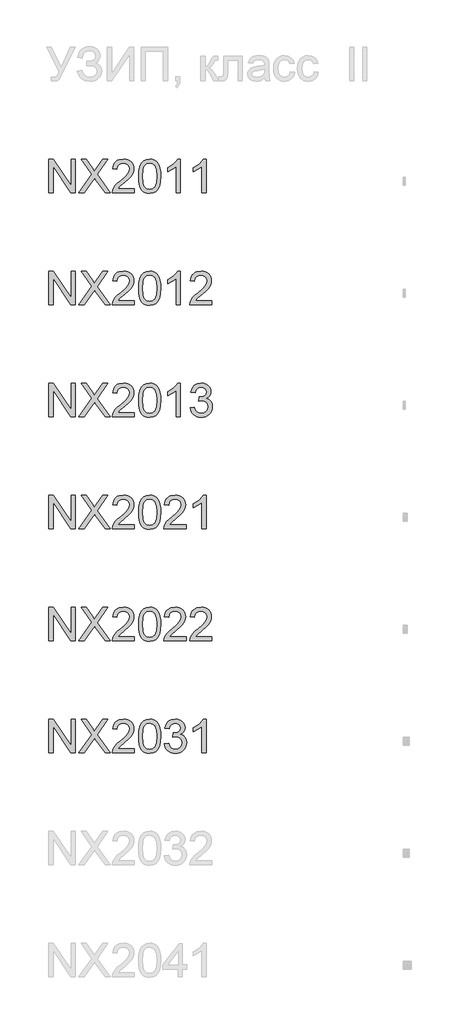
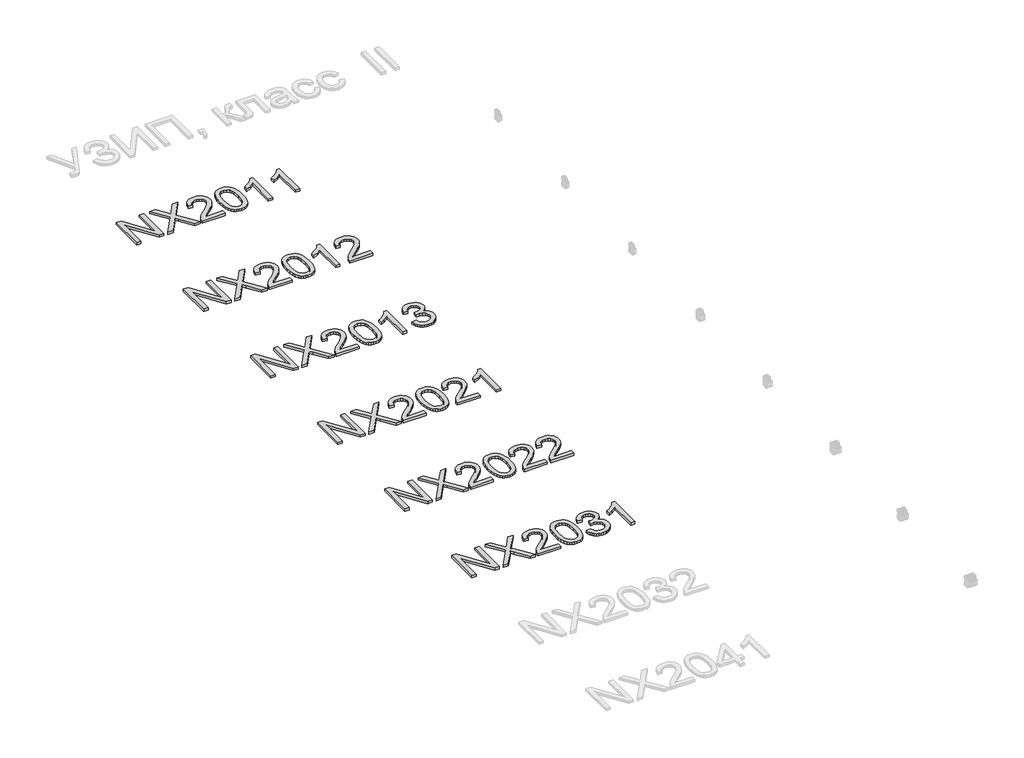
# One storey, part 26 of 124: 6 proxies.
"""IFC4 building model written with IfcOpenShell, lengths in millimetres."""

from ifc_helpers import new_model, si_unit, origin, origin_with_axes, place, context, project, spatial, polyline, outline, extrude, element, save

model = new_model("IFC4")

# Units and contexts
model_context = context("Model", 3, world=origin())
ifc_project = project(units=[si_unit("LENGTHUNIT", "METRE", prefix="MILLI")], contexts=[model_context])

# Site, building, storey
site = spatial("IfcSite", under=ifc_project)
building = spatial("IfcBuilding", under=site)
storey = spatial("IfcBuildingStorey", under=building, Name="Этаж 01", Elevation=0.0)

# Proxies
placement = place(None, origin())
element("IfcBuildingElementProxy", 1, Name="300", ObjectType="300", at=placement, inside=storey, context=model_context, shape_type="SweptSolid", body=[
    extrude(outline(polyline([(49499.8220677, -121116.6913893), (49499.8220677, -120815.3224589), (49540.1419344, -120815.3224589), (49697.5954283, -121054.0778737), (49697.5954283, -120815.3224589), (49735.2665446, -120815.3224589), (49735.2665446, -121116.6913893), (49694.9466779, -121116.6913893), (49537.493184, -120877.862398), (49537.493184, -121116.6913893), (49499.8220677, -121116.6913893)])), origin_with_axes(), (0.0, 0.0, 1.0), 20.0),
    extrude(outline(polyline([(49768.2287714, -121116.6913893), (49884.4059055, -120952.4688667), (49787.0643295, -120815.3224589), (49832.2402385, -120815.3224589), (49887.0546558, -120892.5041014), (49905.522332, -120922.5968486), (49927.1537933, -120891.9890666), (49981.3795994, -120815.3224589), (50027.217696, -120815.3224589), (49929.8761201, -120952.910325), (50046.0532541, -121116.6913893), (50000.8773451, -121116.6913893), (49923.4749733, -121007.5040131), (49907.361742, -120984.8424822), (49889.6298298, -121009.7113051), (49814.066868, -121116.6913893), (49768.2287714, -121116.6913893)])), origin_with_axes(), (0.0, 0.0, 1.0), 20.0),
    extrude(outline(polyline([(50262.6621729, -121079.020273), (50262.6621729, -121116.6913893), (50064.8888123, -121116.6913893), (50068.9355142, -121090.7189204), (50078.2245346, -121070.4210314), (50091.8177743, -121050.7301476), (50111.481067, -121030.1195588), (50138.9802461, -121007.0625547), (50179.6312066, -120970.9549369), (50204.0217829, -120944.3018864), (50216.217071, -120922.670425), (50220.282167, -120901.6275749), (50216.4469972, -120882.7644256), (50204.9414878, -120867.0834556), (50187.2555609, -120856.5160453), (50164.8791386, -120852.9935752), (50141.3806761, -120856.4332718), (50123.1245321, -120866.7523618), (50111.3431112, -120883.1415047), (50107.2688181, -120904.7913601), (50069.5977018, -120900.0824705), (50078.7303724, -120863.6437589), (50087.276731, -120849.1078216), (50098.4764384, -120837.0274966), (50112.0719774, -120827.5315426), (50127.8058305, -120820.7487183), (50165.688479, -120815.3224589), (50185.8783027, -120816.830775), (50203.8470389, -120821.3557236), (50219.5946876, -120828.8973045), (50233.1212487, -120839.4555177), (50243.9852638, -120852.2486141), (50251.7452747, -120866.4948444), (50256.4012812, -120882.1942085), (50257.9532834, -120899.3467065), (50256.2794203, -120917.3637273), (50251.257831, -120935.0680483), (50242.3458897, -120953.0758719), (50229.0009703, -120972.0034006), (50207.728194, -120994.6005522), (50175.0326816, -121023.6172445), (50131.6961826, -121059.853621), (50114.7000344, -121079.020273), (50262.6621729, -121079.020273)])), origin_with_axes(), (0.0, 0.0, 1.0), 20.0),
    extrude(outline(polyline([(50300.3332892, -120968.4349452), (50303.1016012, -120920.1964186), (50311.4065373, -120881.725159), (50325.1653239, -120852.4325551), (50344.2951876, -120831.7299958), (50368.9340842, -120819.4243431), (50399.2199695, -120815.3224589), (50422.4333234, -120817.75048), (50443.2186561, -120825.0345435), (50460.6010804, -120836.8895408), (50473.6057089, -120853.0303634), (50483.4281582, -120873.3190554), (50491.2640447, -120897.6176612), (50496.3959985, -120928.4737635), (50498.1066498, -120968.4349452), (50495.3659289, -121016.3975604), (50487.1437663, -121054.7768495), (50473.4677532, -121084.0970445), (50454.3654806, -121104.8823773), (50429.6714017, -121117.2708034), (50399.2199695, -121121.4002788), (50378.471425, -121119.6068541), (50360.0773252, -121114.2265799), (50344.0376702, -121105.2594563), (50330.35246, -121092.7054832), (50317.2190728, -121070.0117626), (50307.8380819, -121041.7354328), (50302.2094874, -121007.8764937), (50300.3332892, -120968.4349452)]), holes=[polyline([(50338.0044055, -120968.3613688), (50342.4189894, -121027.6179612), (50347.9372194, -121047.8859599), (50355.6627413, -121061.9137602), (50375.3812162, -121078.275312), (50399.2199695, -121083.7291625), (50423.0587228, -121078.2569179), (50442.7771977, -121061.8401838), (50450.5027196, -121047.7893909), (50456.0209496, -121027.5259907), (50460.4355335, -120968.3613688), (50456.1681024, -120910.4383487), (50450.8338134, -120890.2370286), (50443.3658089, -120875.8758353), (50423.6841222, -120858.7141402), (50398.7785111, -120852.9935752), (50375.1972752, -120858.0335585), (50356.2513525, -120873.1535085), (50348.2683132, -120888.7884933), (50342.5661422, -120909.8681316), (50338.0044055, -120968.3613688)])]), origin_with_axes(), (0.0, 0.0, 1.0), 20.0),
    extrude(outline(polyline([(50672.3355627, -121116.6913893), (50634.6644464, -121116.6913893), (50634.6644464, -120881.8355236), (50598.9798929, -120907.2561694), (50559.3222138, -120926.2756686), (50559.3222138, -120890.6646915), (50588.9091233, -120874.5698542), (50614.5413013, -120855.4215963), (50634.7472199, -120835.0593279), (50648.055351, -120815.3224589), (50672.3355627, -120815.3224589), (50672.3355627, -121116.6913893)])), origin_with_axes(), (0.0, 0.0, 1.0), 20.0),
    extrude(outline(polyline([(50903.0711501, -121116.6913893), (50865.4000338, -121116.6913893), (50865.4000338, -120881.8355236), (50829.7154803, -120907.2561694), (50790.0578012, -120926.2756686), (50790.0578012, -120890.6646915), (50819.6447106, -120874.5698542), (50845.2768887, -120855.4215963), (50865.4828072, -120835.0593279), (50878.7909384, -120815.3224589), (50903.0711501, -120815.3224589), (50903.0711501, -121116.6913893)])), origin_with_axes(), (0.0, 0.0, 1.0), 20.0),
])
element("IfcBuildingElementProxy", 2, Name="300", ObjectType="300", at=placement, inside=storey, context=model_context, shape_type="SweptSolid", body=[
    extrude(outline(polyline([(49499.8220677, -122116.6913893), (49499.8220677, -121815.3224589), (49540.1419344, -121815.3224589), (49697.5954283, -122054.0778737), (49697.5954283, -121815.3224589), (49735.2665446, -121815.3224589), (49735.2665446, -122116.6913893), (49694.9466779, -122116.6913893), (49537.493184, -121877.862398), (49537.493184, -122116.6913893), (49499.8220677, -122116.6913893)])), origin_with_axes(), (0.0, 0.0, 1.0), 20.0),
    extrude(outline(polyline([(49768.2287714, -122116.6913893), (49884.4059055, -121952.4688667), (49787.0643295, -121815.3224589), (49832.2402385, -121815.3224589), (49887.0546558, -121892.5041014), (49905.522332, -121922.5968486), (49927.1537933, -121891.9890666), (49981.3795994, -121815.3224589), (50027.217696, -121815.3224589), (49929.8761201, -121952.910325), (50046.0532541, -122116.6913893), (50000.8773451, -122116.6913893), (49923.4749733, -122007.5040131), (49907.361742, -121984.8424822), (49889.6298298, -122009.7113051), (49814.066868, -122116.6913893), (49768.2287714, -122116.6913893)])), origin_with_axes(), (0.0, 0.0, 1.0), 20.0),
    extrude(outline(polyline([(50262.6621729, -122079.020273), (50262.6621729, -122116.6913893), (50064.8888123, -122116.6913893), (50068.9355142, -122090.7189204), (50078.2245346, -122070.4210314), (50091.8177743, -122050.7301476), (50111.481067, -122030.1195588), (50138.9802461, -122007.0625547), (50179.6312066, -121970.9549369), (50204.0217829, -121944.3018864), (50216.217071, -121922.670425), (50220.282167, -121901.6275749), (50216.4469972, -121882.7644256), (50204.9414878, -121867.0834556), (50187.2555609, -121856.5160453), (50164.8791386, -121852.9935752), (50141.3806761, -121856.4332718), (50123.1245321, -121866.7523618), (50111.3431112, -121883.1415047), (50107.2688181, -121904.7913601), (50069.5977018, -121900.0824705), (50078.7303724, -121863.6437589), (50087.276731, -121849.1078216), (50098.4764384, -121837.0274966), (50112.0719774, -121827.5315426), (50127.8058305, -121820.7487183), (50165.688479, -121815.3224589), (50185.8783027, -121816.830775), (50203.8470389, -121821.3557236), (50219.5946876, -121828.8973045), (50233.1212487, -121839.4555177), (50243.9852638, -121852.2486141), (50251.7452747, -121866.4948444), (50256.4012812, -121882.1942085), (50257.9532834, -121899.3467065), (50256.2794203, -121917.3637273), (50251.257831, -121935.0680483), (50242.3458897, -121953.0758719), (50229.0009703, -121972.0034006), (50207.728194, -121994.6005522), (50175.0326816, -122023.6172445), (50131.6961826, -122059.853621), (50114.7000344, -122079.020273), (50262.6621729, -122079.020273)])), origin_with_axes(), (0.0, 0.0, 1.0), 20.0),
    extrude(outline(polyline([(50300.3332892, -121968.4349452), (50303.1016012, -121920.1964186), (50311.4065373, -121881.725159), (50325.1653239, -121852.4325551), (50344.2951876, -121831.7299958), (50368.9340842, -121819.4243431), (50399.2199695, -121815.3224589), (50422.4333234, -121817.75048), (50443.2186561, -121825.0345435), (50460.6010804, -121836.8895408), (50473.6057089, -121853.0303634), (50483.4281582, -121873.3190554), (50491.2640447, -121897.6176612), (50496.3959985, -121928.4737635), (50498.1066498, -121968.4349452), (50495.3659289, -122016.3975604), (50487.1437663, -122054.7768495), (50473.4677532, -122084.0970445), (50454.3654806, -122104.8823773), (50429.6714017, -122117.2708034), (50399.2199695, -122121.4002788), (50378.471425, -122119.6068541), (50360.0773252, -122114.2265799), (50344.0376702, -122105.2594563), (50330.35246, -122092.7054832), (50317.2190728, -122070.0117626), (50307.8380819, -122041.7354328), (50302.2094874, -122007.8764937), (50300.3332892, -121968.4349452)]), holes=[polyline([(50338.0044055, -121968.3613688), (50342.4189894, -122027.6179612), (50347.9372194, -122047.8859599), (50355.6627413, -122061.9137602), (50375.3812162, -122078.275312), (50399.2199695, -122083.7291625), (50423.0587228, -122078.2569179), (50442.7771977, -122061.8401838), (50450.5027196, -122047.7893909), (50456.0209496, -122027.5259907), (50460.4355335, -121968.3613688), (50456.1681024, -121910.4383487), (50450.8338134, -121890.2370286), (50443.3658089, -121875.8758353), (50423.6841222, -121858.7141402), (50398.7785111, -121852.9935752), (50375.1972752, -121858.0335585), (50356.2513525, -121873.1535085), (50348.2683132, -121888.7884933), (50342.5661422, -121909.8681316), (50338.0044055, -121968.3613688)])]), origin_with_axes(), (0.0, 0.0, 1.0), 20.0),
    extrude(outline(polyline([(50672.3355627, -122116.6913893), (50634.6644464, -122116.6913893), (50634.6644464, -121881.8355236), (50598.9798929, -121907.2561694), (50559.3222138, -121926.2756686), (50559.3222138, -121890.6646915), (50588.9091233, -121874.5698542), (50614.5413013, -121855.4215963), (50634.7472199, -121835.0593279), (50648.055351, -121815.3224589), (50672.3355627, -121815.3224589), (50672.3355627, -122116.6913893)])), origin_with_axes(), (0.0, 0.0, 1.0), 20.0),
    extrude(outline(polyline([(50954.868935, -122079.020273), (50954.868935, -122116.6913893), (50757.0955744, -122116.6913893), (50761.1422764, -122090.7189204), (50770.4312967, -122070.4210314), (50784.0245365, -122050.7301476), (50803.6878291, -122030.1195588), (50831.1870082, -122007.0625547), (50871.8379687, -121970.9549369), (50896.228545, -121944.3018864), (50908.4238331, -121922.670425), (50912.4889292, -121901.6275749), (50908.6537594, -121882.7644256), (50897.14825, -121867.0834556), (50879.4623231, -121856.5160453), (50857.0859007, -121852.9935752), (50833.5874383, -121856.4332718), (50815.3312942, -121866.7523618), (50803.5498734, -121883.1415047), (50799.4755803, -121904.7913601), (50761.8044639, -121900.0824705), (50770.9371345, -121863.6437589), (50779.4834931, -121849.1078216), (50790.6832006, -121837.0274966), (50804.2787396, -121827.5315426), (50820.0125926, -121820.7487183), (50857.8952411, -121815.3224589), (50878.0850648, -121816.830775), (50896.053801, -121821.3557236), (50911.8014497, -121828.8973045), (50925.3280108, -121839.4555177), (50936.192026, -121852.2486141), (50943.9520368, -121866.4948444), (50948.6080433, -121882.1942085), (50950.1600455, -121899.3467065), (50948.4861824, -121917.3637273), (50943.4645932, -121935.0680483), (50934.5526518, -121953.0758719), (50921.2077325, -121972.0034006), (50899.9349561, -121994.6005522), (50867.2394438, -122023.6172445), (50823.9029447, -122059.853621), (50806.9067966, -122079.020273), (50954.868935, -122079.020273)])), origin_with_axes(), (0.0, 0.0, 1.0), 20.0),
])
element("IfcBuildingElementProxy", 3, Name="300", ObjectType="300", at=placement, inside=storey, context=model_context, shape_type="SweptSolid", body=[
    extrude(outline(polyline([(49499.8220677, -123116.6913893), (49499.8220677, -122815.3224589), (49540.1419344, -122815.3224589), (49697.5954283, -123054.0778737), (49697.5954283, -122815.3224589), (49735.2665446, -122815.3224589), (49735.2665446, -123116.6913893), (49694.9466779, -123116.6913893), (49537.493184, -122877.862398), (49537.493184, -123116.6913893), (49499.8220677, -123116.6913893)])), origin_with_axes(), (0.0, 0.0, 1.0), 20.0),
    extrude(outline(polyline([(49768.2287714, -123116.6913893), (49884.4059055, -122952.4688667), (49787.0643295, -122815.3224589), (49832.2402385, -122815.3224589), (49887.0546558, -122892.5041014), (49905.522332, -122922.5968486), (49927.1537933, -122891.9890666), (49981.3795994, -122815.3224589), (50027.217696, -122815.3224589), (49929.8761201, -122952.910325), (50046.0532541, -123116.6913893), (50000.8773451, -123116.6913893), (49923.4749733, -123007.5040131), (49907.361742, -122984.8424822), (49889.6298298, -123009.7113051), (49814.066868, -123116.6913893), (49768.2287714, -123116.6913893)])), origin_with_axes(), (0.0, 0.0, 1.0), 20.0),
    extrude(outline(polyline([(50262.6621729, -123079.020273), (50262.6621729, -123116.6913893), (50064.8888123, -123116.6913893), (50068.9355142, -123090.7189204), (50078.2245346, -123070.4210314), (50091.8177743, -123050.7301476), (50111.481067, -123030.1195588), (50138.9802461, -123007.0625547), (50179.6312066, -122970.9549369), (50204.0217829, -122944.3018864), (50216.217071, -122922.670425), (50220.282167, -122901.6275749), (50216.4469972, -122882.7644256), (50204.9414878, -122867.0834556), (50187.2555609, -122856.5160453), (50164.8791386, -122852.9935752), (50141.3806761, -122856.4332718), (50123.1245321, -122866.7523618), (50111.3431112, -122883.1415047), (50107.2688181, -122904.7913601), (50069.5977018, -122900.0824705), (50078.7303724, -122863.6437589), (50087.276731, -122849.1078216), (50098.4764384, -122837.0274966), (50112.0719774, -122827.5315426), (50127.8058305, -122820.7487183), (50165.688479, -122815.3224589), (50185.8783027, -122816.830775), (50203.8470389, -122821.3557236), (50219.5946876, -122828.8973045), (50233.1212487, -122839.4555177), (50243.9852638, -122852.2486141), (50251.7452747, -122866.4948444), (50256.4012812, -122882.1942085), (50257.9532834, -122899.3467065), (50256.2794203, -122917.3637273), (50251.257831, -122935.0680483), (50242.3458897, -122953.0758719), (50229.0009703, -122972.0034006), (50207.728194, -122994.6005522), (50175.0326816, -123023.6172445), (50131.6961826, -123059.853621), (50114.7000344, -123079.020273), (50262.6621729, -123079.020273)])), origin_with_axes(), (0.0, 0.0, 1.0), 20.0),
    extrude(outline(polyline([(50300.3332892, -122968.4349452), (50303.1016012, -122920.1964186), (50311.4065373, -122881.725159), (50325.1653239, -122852.4325551), (50344.2951876, -122831.7299958), (50368.9340842, -122819.4243431), (50399.2199695, -122815.3224589), (50422.4333234, -122817.75048), (50443.2186561, -122825.0345435), (50460.6010804, -122836.8895408), (50473.6057089, -122853.0303634), (50483.4281582, -122873.3190554), (50491.2640447, -122897.6176612), (50496.3959985, -122928.4737635), (50498.1066498, -122968.4349452), (50495.3659289, -123016.3975604), (50487.1437663, -123054.7768495), (50473.4677532, -123084.0970445), (50454.3654806, -123104.8823773), (50429.6714017, -123117.2708034), (50399.2199695, -123121.4002788), (50378.471425, -123119.6068541), (50360.0773252, -123114.2265799), (50344.0376702, -123105.2594563), (50330.35246, -123092.7054832), (50317.2190728, -123070.0117626), (50307.8380819, -123041.7354328), (50302.2094874, -123007.8764937), (50300.3332892, -122968.4349452)]), holes=[polyline([(50338.0044055, -122968.3613688), (50342.4189894, -123027.6179612), (50347.9372194, -123047.8859599), (50355.6627413, -123061.9137602), (50375.3812162, -123078.275312), (50399.2199695, -123083.7291625), (50423.0587228, -123078.2569179), (50442.7771977, -123061.8401838), (50450.5027196, -123047.7893909), (50456.0209496, -123027.5259907), (50460.4355335, -122968.3613688), (50456.1681024, -122910.4383487), (50450.8338134, -122890.2370286), (50443.3658089, -122875.8758353), (50423.6841222, -122858.7141402), (50398.7785111, -122852.9935752), (50375.1972752, -122858.0335585), (50356.2513525, -122873.1535085), (50348.2683132, -122888.7884933), (50342.5661422, -122909.8681316), (50338.0044055, -122968.3613688)])]), origin_with_axes(), (0.0, 0.0, 1.0), 20.0),
    extrude(outline(polyline([(50672.3355627, -123116.6913893), (50634.6644464, -123116.6913893), (50634.6644464, -122881.8355236), (50598.9798929, -122907.2561694), (50559.3222138, -122926.2756686), (50559.3222138, -122890.6646915), (50588.9091233, -122874.5698542), (50614.5413013, -122855.4215963), (50634.7472199, -122835.0593279), (50648.055351, -122815.3224589), (50672.3355627, -122815.3224589), (50672.3355627, -123116.6913893)])), origin_with_axes(), (0.0, 0.0, 1.0), 20.0),
    extrude(outline(polyline([(50761.8044639, -123036.6402671), (50799.4755803, -123031.9313776), (50807.909275, -123055.604584), (50820.260913, -123071.5890567), (50837.1374995, -123080.6941361), (50859.1460399, -123083.7291625), (50884.9713559, -123079.5537019), (50904.9105601, -123067.02732), (50917.6576712, -123048.3389146), (50921.9067082, -123025.6773837), (50917.6944594, -123004.165484), (50905.0577129, -122986.7186804), (50885.9278491, -122975.1579887), (50862.2362486, -122971.3044248), (50835.8223214, -122975.4247032), (50840.0161761, -122937.7535868), (50846.0494408, -122938.1950452), (50868.6190012, -122935.4911126), (50888.7973287, -122927.3793146), (50903.0343619, -122913.6573162), (50907.7800396, -122894.1227822), (50904.340343, -122877.853201), (50894.021253, -122864.6554344), (50878.2759036, -122855.90904), (50858.5574287, -122852.9935752), (50838.8021655, -122855.9366311), (50822.652146, -122864.765799), (50810.861528, -122879.4810788), (50804.1844698, -122900.0824705), (50766.5133535, -122895.373581), (50777.6049956, -122861.5468315), (50797.3418647, -122836.2917326), (50824.3444031, -122820.5647773), (50857.2330535, -122815.3224589), (50880.9154569, -122817.9068299), (50902.6664799, -122825.6599429), (50921.0053974, -122837.8920193), (50934.4514843, -122853.9132801), (50942.701238, -122872.3717593), (50945.4511559, -122891.9154902), (50942.8391938, -122910.125649), (50935.0033073, -122926.6435506), (50922.053861, -122940.7150369), (50904.1012197, -122951.5859499), (50927.6824556, -122961.1140935), (50945.1568503, -122977.3376895), (50955.972581, -122999.373821), (50959.5778246, -123026.3395713), (50957.7752028, -123045.4510409), (50952.3673374, -123063.0541944), (50943.3542286, -123079.1490317), (50930.7358761, -123093.7355528), (50915.3630073, -123105.8388704), (50898.0863491, -123114.4840973), (50878.9059015, -123119.6712335), (50857.8216647, -123121.4002788), (50838.7653773, -123119.9241523), (50821.4013472, -123115.4957728), (50805.7295742, -123108.1151403), (50791.7500584, -123097.7822547), (50780.0284183, -123085.1041215), (50771.1302725, -123070.6877458), (50765.0556211, -123054.5331277), (50761.8044639, -123036.6402671)])), origin_with_axes(), (0.0, 0.0, 1.0), 20.0),
])
element("IfcBuildingElementProxy", 4, Name="300", ObjectType="300", at=placement, inside=storey, context=model_context, shape_type="SweptSolid", body=[
    extrude(outline(polyline([(49499.8220677, -124116.6913893), (49499.8220677, -123815.3224589), (49540.1419344, -123815.3224589), (49697.5954283, -124054.0778737), (49697.5954283, -123815.3224589), (49735.2665446, -123815.3224589), (49735.2665446, -124116.6913893), (49694.9466779, -124116.6913893), (49537.493184, -123877.862398), (49537.493184, -124116.6913893), (49499.8220677, -124116.6913893)])), origin_with_axes(), (0.0, 0.0, 1.0), 20.0),
    extrude(outline(polyline([(49768.2287714, -124116.6913893), (49884.4059055, -123952.4688667), (49787.0643295, -123815.3224589), (49832.2402385, -123815.3224589), (49887.0546558, -123892.5041014), (49905.522332, -123922.5968486), (49927.1537933, -123891.9890666), (49981.3795994, -123815.3224589), (50027.217696, -123815.3224589), (49929.8761201, -123952.910325), (50046.0532541, -124116.6913893), (50000.8773451, -124116.6913893), (49923.4749733, -124007.5040131), (49907.361742, -123984.8424822), (49889.6298298, -124009.7113051), (49814.066868, -124116.6913893), (49768.2287714, -124116.6913893)])), origin_with_axes(), (0.0, 0.0, 1.0), 20.0),
    extrude(outline(polyline([(50262.6621729, -124079.020273), (50262.6621729, -124116.6913893), (50064.8888123, -124116.6913893), (50068.9355142, -124090.7189204), (50078.2245346, -124070.4210314), (50091.8177743, -124050.7301476), (50111.481067, -124030.1195588), (50138.9802461, -124007.0625547), (50179.6312066, -123970.9549369), (50204.0217829, -123944.3018864), (50216.217071, -123922.670425), (50220.282167, -123901.6275749), (50216.4469972, -123882.7644256), (50204.9414878, -123867.0834556), (50187.2555609, -123856.5160453), (50164.8791386, -123852.9935752), (50141.3806761, -123856.4332718), (50123.1245321, -123866.7523618), (50111.3431112, -123883.1415047), (50107.2688181, -123904.7913601), (50069.5977018, -123900.0824705), (50078.7303724, -123863.6437589), (50087.276731, -123849.1078216), (50098.4764384, -123837.0274966), (50112.0719774, -123827.5315426), (50127.8058305, -123820.7487183), (50165.688479, -123815.3224589), (50185.8783027, -123816.830775), (50203.8470389, -123821.3557236), (50219.5946876, -123828.8973045), (50233.1212487, -123839.4555177), (50243.9852638, -123852.2486141), (50251.7452747, -123866.4948444), (50256.4012812, -123882.1942085), (50257.9532834, -123899.3467065), (50256.2794203, -123917.3637273), (50251.257831, -123935.0680483), (50242.3458897, -123953.0758719), (50229.0009703, -123972.0034006), (50207.728194, -123994.6005522), (50175.0326816, -124023.6172445), (50131.6961826, -124059.853621), (50114.7000344, -124079.020273), (50262.6621729, -124079.020273)])), origin_with_axes(), (0.0, 0.0, 1.0), 20.0),
    extrude(outline(polyline([(50300.3332892, -123968.4349452), (50303.1016012, -123920.1964186), (50311.4065373, -123881.725159), (50325.1653239, -123852.4325551), (50344.2951876, -123831.7299958), (50368.9340842, -123819.4243431), (50399.2199695, -123815.3224589), (50422.4333234, -123817.75048), (50443.2186561, -123825.0345435), (50460.6010804, -123836.8895408), (50473.6057089, -123853.0303634), (50483.4281582, -123873.3190554), (50491.2640447, -123897.6176612), (50496.3959985, -123928.4737635), (50498.1066498, -123968.4349452), (50495.3659289, -124016.3975604), (50487.1437663, -124054.7768495), (50473.4677532, -124084.0970445), (50454.3654806, -124104.8823773), (50429.6714017, -124117.2708034), (50399.2199695, -124121.4002788), (50378.471425, -124119.6068541), (50360.0773252, -124114.2265799), (50344.0376702, -124105.2594563), (50330.35246, -124092.7054832), (50317.2190728, -124070.0117626), (50307.8380819, -124041.7354328), (50302.2094874, -124007.8764937), (50300.3332892, -123968.4349452)]), holes=[polyline([(50338.0044055, -123968.3613688), (50342.4189894, -124027.6179612), (50347.9372194, -124047.8859599), (50355.6627413, -124061.9137602), (50375.3812162, -124078.275312), (50399.2199695, -124083.7291625), (50423.0587228, -124078.2569179), (50442.7771977, -124061.8401838), (50450.5027196, -124047.7893909), (50456.0209496, -124027.5259907), (50460.4355335, -123968.3613688), (50456.1681024, -123910.4383487), (50450.8338134, -123890.2370286), (50443.3658089, -123875.8758353), (50423.6841222, -123858.7141402), (50398.7785111, -123852.9935752), (50375.1972752, -123858.0335585), (50356.2513525, -123873.1535085), (50348.2683132, -123888.7884933), (50342.5661422, -123909.8681316), (50338.0044055, -123968.3613688)])]), origin_with_axes(), (0.0, 0.0, 1.0), 20.0),
    extrude(outline(polyline([(50724.1333476, -124079.020273), (50724.1333476, -124116.6913893), (50526.359987, -124116.6913893), (50530.406689, -124090.7189204), (50539.6957094, -124070.4210314), (50553.2889491, -124050.7301476), (50572.9522417, -124030.1195588), (50600.4514209, -124007.0625547), (50641.1023813, -123970.9549369), (50665.4929576, -123944.3018864), (50677.6882458, -123922.670425), (50681.7533418, -123901.6275749), (50677.918172, -123882.7644256), (50666.4126626, -123867.0834556), (50648.7267357, -123856.5160453), (50626.3503133, -123852.9935752), (50602.8518509, -123856.4332718), (50584.5957069, -123866.7523618), (50572.814286, -123883.1415047), (50568.7399929, -123904.7913601), (50531.0688766, -123900.0824705), (50540.2015471, -123863.6437589), (50548.7479057, -123849.1078216), (50559.9476132, -123837.0274966), (50573.5431522, -123827.5315426), (50589.2770053, -123820.7487183), (50627.1596537, -123815.3224589), (50647.3494775, -123816.830775), (50665.3182137, -123821.3557236), (50681.0658623, -123828.8973045), (50694.5924234, -123839.4555177), (50705.4564386, -123852.2486141), (50713.2164494, -123866.4948444), (50717.8724559, -123882.1942085), (50719.4244581, -123899.3467065), (50717.750595, -123917.3637273), (50712.7290058, -123935.0680483), (50703.8170645, -123953.0758719), (50690.4721451, -123972.0034006), (50669.1993687, -123994.6005522), (50636.5038564, -124023.6172445), (50593.1673574, -124059.853621), (50576.1712092, -124079.020273), (50724.1333476, -124079.020273)])), origin_with_axes(), (0.0, 0.0, 1.0), 20.0),
    extrude(outline(polyline([(50903.0711501, -124116.6913893), (50865.4000338, -124116.6913893), (50865.4000338, -123881.8355236), (50829.7154803, -123907.2561694), (50790.0578012, -123926.2756686), (50790.0578012, -123890.6646915), (50819.6447106, -123874.5698542), (50845.2768887, -123855.4215963), (50865.4828072, -123835.0593279), (50878.7909384, -123815.3224589), (50903.0711501, -123815.3224589), (50903.0711501, -124116.6913893)])), origin_with_axes(), (0.0, 0.0, 1.0), 20.0),
])
element("IfcBuildingElementProxy", 5, Name="300", ObjectType="300", at=placement, inside=storey, context=model_context, shape_type="SweptSolid", body=[
    extrude(outline(polyline([(49499.8220677, -125116.6913893), (49499.8220677, -124815.3224589), (49540.1419344, -124815.3224589), (49697.5954283, -125054.0778737), (49697.5954283, -124815.3224589), (49735.2665446, -124815.3224589), (49735.2665446, -125116.6913893), (49694.9466779, -125116.6913893), (49537.493184, -124877.862398), (49537.493184, -125116.6913893), (49499.8220677, -125116.6913893)])), origin_with_axes(), (0.0, 0.0, 1.0), 20.0),
    extrude(outline(polyline([(49768.2287714, -125116.6913893), (49884.4059055, -124952.4688667), (49787.0643295, -124815.3224589), (49832.2402385, -124815.3224589), (49887.0546558, -124892.5041014), (49905.522332, -124922.5968486), (49927.1537933, -124891.9890666), (49981.3795994, -124815.3224589), (50027.217696, -124815.3224589), (49929.8761201, -124952.910325), (50046.0532541, -125116.6913893), (50000.8773451, -125116.6913893), (49923.4749733, -125007.5040131), (49907.361742, -124984.8424822), (49889.6298298, -125009.7113051), (49814.066868, -125116.6913893), (49768.2287714, -125116.6913893)])), origin_with_axes(), (0.0, 0.0, 1.0), 20.0),
    extrude(outline(polyline([(50262.6621729, -125079.020273), (50262.6621729, -125116.6913893), (50064.8888123, -125116.6913893), (50068.9355142, -125090.7189204), (50078.2245346, -125070.4210314), (50091.8177743, -125050.7301476), (50111.481067, -125030.1195588), (50138.9802461, -125007.0625547), (50179.6312066, -124970.9549369), (50204.0217829, -124944.3018864), (50216.217071, -124922.670425), (50220.282167, -124901.6275749), (50216.4469972, -124882.7644256), (50204.9414878, -124867.0834556), (50187.2555609, -124856.5160453), (50164.8791386, -124852.9935752), (50141.3806761, -124856.4332718), (50123.1245321, -124866.7523618), (50111.3431112, -124883.1415047), (50107.2688181, -124904.7913601), (50069.5977018, -124900.0824705), (50078.7303724, -124863.6437589), (50087.276731, -124849.1078216), (50098.4764384, -124837.0274966), (50112.0719774, -124827.5315426), (50127.8058305, -124820.7487183), (50165.688479, -124815.3224589), (50185.8783027, -124816.830775), (50203.8470389, -124821.3557236), (50219.5946876, -124828.8973045), (50233.1212487, -124839.4555177), (50243.9852638, -124852.2486141), (50251.7452747, -124866.4948444), (50256.4012812, -124882.1942085), (50257.9532834, -124899.3467065), (50256.2794203, -124917.3637273), (50251.257831, -124935.0680483), (50242.3458897, -124953.0758719), (50229.0009703, -124972.0034006), (50207.728194, -124994.6005522), (50175.0326816, -125023.6172445), (50131.6961826, -125059.853621), (50114.7000344, -125079.020273), (50262.6621729, -125079.020273)])), origin_with_axes(), (0.0, 0.0, 1.0), 20.0),
    extrude(outline(polyline([(50300.3332892, -124968.4349452), (50303.1016012, -124920.1964186), (50311.4065373, -124881.725159), (50325.1653239, -124852.4325551), (50344.2951876, -124831.7299958), (50368.9340842, -124819.4243431), (50399.2199695, -124815.3224589), (50422.4333234, -124817.75048), (50443.2186561, -124825.0345435), (50460.6010804, -124836.8895408), (50473.6057089, -124853.0303634), (50483.4281582, -124873.3190554), (50491.2640447, -124897.6176612), (50496.3959985, -124928.4737635), (50498.1066498, -124968.4349452), (50495.3659289, -125016.3975604), (50487.1437663, -125054.7768495), (50473.4677532, -125084.0970445), (50454.3654806, -125104.8823773), (50429.6714017, -125117.2708034), (50399.2199695, -125121.4002788), (50378.471425, -125119.6068541), (50360.0773252, -125114.2265799), (50344.0376702, -125105.2594563), (50330.35246, -125092.7054832), (50317.2190728, -125070.0117626), (50307.8380819, -125041.7354328), (50302.2094874, -125007.8764937), (50300.3332892, -124968.4349452)]), holes=[polyline([(50338.0044055, -124968.3613688), (50342.4189894, -125027.6179612), (50347.9372194, -125047.8859599), (50355.6627413, -125061.9137602), (50375.3812162, -125078.275312), (50399.2199695, -125083.7291625), (50423.0587228, -125078.2569179), (50442.7771977, -125061.8401838), (50450.5027196, -125047.7893909), (50456.0209496, -125027.5259907), (50460.4355335, -124968.3613688), (50456.1681024, -124910.4383487), (50450.8338134, -124890.2370286), (50443.3658089, -124875.8758353), (50423.6841222, -124858.7141402), (50398.7785111, -124852.9935752), (50375.1972752, -124858.0335585), (50356.2513525, -124873.1535085), (50348.2683132, -124888.7884933), (50342.5661422, -124909.8681316), (50338.0044055, -124968.3613688)])]), origin_with_axes(), (0.0, 0.0, 1.0), 20.0),
    extrude(outline(polyline([(50724.1333476, -125079.020273), (50724.1333476, -125116.6913893), (50526.359987, -125116.6913893), (50530.406689, -125090.7189204), (50539.6957094, -125070.4210314), (50553.2889491, -125050.7301476), (50572.9522417, -125030.1195588), (50600.4514209, -125007.0625547), (50641.1023813, -124970.9549369), (50665.4929576, -124944.3018864), (50677.6882458, -124922.670425), (50681.7533418, -124901.6275749), (50677.918172, -124882.7644256), (50666.4126626, -124867.0834556), (50648.7267357, -124856.5160453), (50626.3503133, -124852.9935752), (50602.8518509, -124856.4332718), (50584.5957069, -124866.7523618), (50572.814286, -124883.1415047), (50568.7399929, -124904.7913601), (50531.0688766, -124900.0824705), (50540.2015471, -124863.6437589), (50548.7479057, -124849.1078216), (50559.9476132, -124837.0274966), (50573.5431522, -124827.5315426), (50589.2770053, -124820.7487183), (50627.1596537, -124815.3224589), (50647.3494775, -124816.830775), (50665.3182137, -124821.3557236), (50681.0658623, -124828.8973045), (50694.5924234, -124839.4555177), (50705.4564386, -124852.2486141), (50713.2164494, -124866.4948444), (50717.8724559, -124882.1942085), (50719.4244581, -124899.3467065), (50717.750595, -124917.3637273), (50712.7290058, -124935.0680483), (50703.8170645, -124953.0758719), (50690.4721451, -124972.0034006), (50669.1993687, -124994.6005522), (50636.5038564, -125023.6172445), (50593.1673574, -125059.853621), (50576.1712092, -125079.020273), (50724.1333476, -125079.020273)])), origin_with_axes(), (0.0, 0.0, 1.0), 20.0),
    extrude(outline(polyline([(50954.868935, -125079.020273), (50954.868935, -125116.6913893), (50757.0955744, -125116.6913893), (50761.1422764, -125090.7189204), (50770.4312967, -125070.4210314), (50784.0245365, -125050.7301476), (50803.6878291, -125030.1195588), (50831.1870082, -125007.0625547), (50871.8379687, -124970.9549369), (50896.228545, -124944.3018864), (50908.4238331, -124922.670425), (50912.4889292, -124901.6275749), (50908.6537594, -124882.7644256), (50897.14825, -124867.0834556), (50879.4623231, -124856.5160453), (50857.0859007, -124852.9935752), (50833.5874383, -124856.4332718), (50815.3312942, -124866.7523618), (50803.5498734, -124883.1415047), (50799.4755803, -124904.7913601), (50761.8044639, -124900.0824705), (50770.9371345, -124863.6437589), (50779.4834931, -124849.1078216), (50790.6832006, -124837.0274966), (50804.2787396, -124827.5315426), (50820.0125926, -124820.7487183), (50857.8952411, -124815.3224589), (50878.0850648, -124816.830775), (50896.053801, -124821.3557236), (50911.8014497, -124828.8973045), (50925.3280108, -124839.4555177), (50936.192026, -124852.2486141), (50943.9520368, -124866.4948444), (50948.6080433, -124882.1942085), (50950.1600455, -124899.3467065), (50948.4861824, -124917.3637273), (50943.4645932, -124935.0680483), (50934.5526518, -124953.0758719), (50921.2077325, -124972.0034006), (50899.9349561, -124994.6005522), (50867.2394438, -125023.6172445), (50823.9029447, -125059.853621), (50806.9067966, -125079.020273), (50954.868935, -125079.020273)])), origin_with_axes(), (0.0, 0.0, 1.0), 20.0),
])
element("IfcBuildingElementProxy", 6, Name="300", ObjectType="300", at=placement, inside=storey, context=model_context, shape_type="SweptSolid", body=[
    extrude(outline(polyline([(49499.8220677, -126116.6913893), (49499.8220677, -125815.3224589), (49540.1419344, -125815.3224589), (49697.5954283, -126054.0778737), (49697.5954283, -125815.3224589), (49735.2665446, -125815.3224589), (49735.2665446, -126116.6913893), (49694.9466779, -126116.6913893), (49537.493184, -125877.862398), (49537.493184, -126116.6913893), (49499.8220677, -126116.6913893)])), origin_with_axes(), (0.0, 0.0, 1.0), 20.0),
    extrude(outline(polyline([(49768.2287714, -126116.6913893), (49884.4059055, -125952.4688667), (49787.0643295, -125815.3224589), (49832.2402385, -125815.3224589), (49887.0546558, -125892.5041014), (49905.522332, -125922.5968486), (49927.1537933, -125891.9890666), (49981.3795994, -125815.3224589), (50027.217696, -125815.3224589), (49929.8761201, -125952.910325), (50046.0532541, -126116.6913893), (50000.8773451, -126116.6913893), (49923.4749733, -126007.5040131), (49907.361742, -125984.8424822), (49889.6298298, -126009.7113051), (49814.066868, -126116.6913893), (49768.2287714, -126116.6913893)])), origin_with_axes(), (0.0, 0.0, 1.0), 20.0),
    extrude(outline(polyline([(50262.6621729, -126079.020273), (50262.6621729, -126116.6913893), (50064.8888123, -126116.6913893), (50068.9355142, -126090.7189204), (50078.2245346, -126070.4210314), (50091.8177743, -126050.7301476), (50111.481067, -126030.1195588), (50138.9802461, -126007.0625547), (50179.6312066, -125970.9549369), (50204.0217829, -125944.3018864), (50216.217071, -125922.670425), (50220.282167, -125901.6275749), (50216.4469972, -125882.7644256), (50204.9414878, -125867.0834556), (50187.2555609, -125856.5160453), (50164.8791386, -125852.9935752), (50141.3806761, -125856.4332718), (50123.1245321, -125866.7523618), (50111.3431112, -125883.1415047), (50107.2688181, -125904.7913601), (50069.5977018, -125900.0824705), (50078.7303724, -125863.6437589), (50087.276731, -125849.1078216), (50098.4764384, -125837.0274966), (50112.0719774, -125827.5315426), (50127.8058305, -125820.7487183), (50165.688479, -125815.3224589), (50185.8783027, -125816.830775), (50203.8470389, -125821.3557236), (50219.5946876, -125828.8973045), (50233.1212487, -125839.4555177), (50243.9852638, -125852.2486141), (50251.7452747, -125866.4948444), (50256.4012812, -125882.1942085), (50257.9532834, -125899.3467065), (50256.2794203, -125917.3637273), (50251.257831, -125935.0680483), (50242.3458897, -125953.0758719), (50229.0009703, -125972.0034006), (50207.728194, -125994.6005522), (50175.0326816, -126023.6172445), (50131.6961826, -126059.853621), (50114.7000344, -126079.020273), (50262.6621729, -126079.020273)])), origin_with_axes(), (0.0, 0.0, 1.0), 20.0),
    extrude(outline(polyline([(50300.3332892, -125968.4349452), (50303.1016012, -125920.1964186), (50311.4065373, -125881.725159), (50325.1653239, -125852.4325551), (50344.2951876, -125831.7299958), (50368.9340842, -125819.4243431), (50399.2199695, -125815.3224589), (50422.4333234, -125817.75048), (50443.2186561, -125825.0345435), (50460.6010804, -125836.8895408), (50473.6057089, -125853.0303634), (50483.4281582, -125873.3190554), (50491.2640447, -125897.6176612), (50496.3959985, -125928.4737635), (50498.1066498, -125968.4349452), (50495.3659289, -126016.3975604), (50487.1437663, -126054.7768495), (50473.4677532, -126084.0970445), (50454.3654806, -126104.8823773), (50429.6714017, -126117.2708034), (50399.2199695, -126121.4002788), (50378.471425, -126119.6068541), (50360.0773252, -126114.2265799), (50344.0376702, -126105.2594563), (50330.35246, -126092.7054832), (50317.2190728, -126070.0117626), (50307.8380819, -126041.7354328), (50302.2094874, -126007.8764937), (50300.3332892, -125968.4349452)]), holes=[polyline([(50338.0044055, -125968.3613688), (50342.4189894, -126027.6179612), (50347.9372194, -126047.8859599), (50355.6627413, -126061.9137602), (50375.3812162, -126078.275312), (50399.2199695, -126083.7291625), (50423.0587228, -126078.2569179), (50442.7771977, -126061.8401838), (50450.5027196, -126047.7893909), (50456.0209496, -126027.5259907), (50460.4355335, -125968.3613688), (50456.1681024, -125910.4383487), (50450.8338134, -125890.2370286), (50443.3658089, -125875.8758353), (50423.6841222, -125858.7141402), (50398.7785111, -125852.9935752), (50375.1972752, -125858.0335585), (50356.2513525, -125873.1535085), (50348.2683132, -125888.7884933), (50342.5661422, -125909.8681316), (50338.0044055, -125968.3613688)])]), origin_with_axes(), (0.0, 0.0, 1.0), 20.0),
    extrude(outline(polyline([(50531.0688766, -126036.6402671), (50568.7399929, -126031.9313776), (50577.1736876, -126055.604584), (50589.5253256, -126071.5890567), (50606.4019121, -126080.6941361), (50628.4104525, -126083.7291625), (50654.2357686, -126079.5537019), (50674.1749727, -126067.02732), (50686.9220838, -126048.3389146), (50691.1711209, -126025.6773837), (50686.958872, -126004.165484), (50674.3221255, -125986.7186804), (50655.1922617, -125975.1579887), (50631.5006613, -125971.3044248), (50605.086734, -125975.4247032), (50609.2805887, -125937.7535868), (50615.3138535, -125938.1950452), (50637.8834139, -125935.4911126), (50658.0617413, -125927.3793146), (50672.2987745, -125913.6573162), (50677.0444523, -125894.1227822), (50673.6047556, -125877.853201), (50663.2856656, -125864.6554344), (50647.5403162, -125855.90904), (50627.8218413, -125852.9935752), (50608.0665782, -125855.9366311), (50591.9165586, -125864.765799), (50580.1259406, -125879.4810788), (50573.4488824, -125900.0824705), (50535.7777661, -125895.373581), (50546.8694083, -125861.5468315), (50566.6062773, -125836.2917326), (50593.6088158, -125820.5647773), (50626.4974661, -125815.3224589), (50650.1798696, -125817.9068299), (50671.9308925, -125825.6599429), (50690.26981, -125837.8920193), (50703.7158969, -125853.9132801), (50711.9656507, -125872.3717593), (50714.7155686, -125891.9154902), (50712.1036064, -125910.125649), (50704.2677199, -125926.6435506), (50691.3182737, -125940.7150369), (50673.3656323, -125951.5859499), (50696.9468682, -125961.1140935), (50714.421263, -125977.3376895), (50725.2369936, -125999.373821), (50728.8422372, -126026.3395713), (50727.0396154, -126045.4510409), (50721.6317501, -126063.0541944), (50712.6186412, -126079.1490317), (50700.0002888, -126093.7355528), (50684.6274199, -126105.8388704), (50667.3507617, -126114.4840973), (50648.1703142, -126119.6712335), (50627.0860773, -126121.4002788), (50608.02979, -126119.9241523), (50590.6657598, -126115.4957728), (50574.9939868, -126108.1151403), (50561.014471, -126097.7822547), (50549.2928309, -126085.1041215), (50540.3946852, -126070.6877458), (50534.3200337, -126054.5331277), (50531.0688766, -126036.6402671)])), origin_with_axes(), (0.0, 0.0, 1.0), 20.0),
    extrude(outline(polyline([(50903.0711501, -126116.6913893), (50865.4000338, -126116.6913893), (50865.4000338, -125881.8355236), (50829.7154803, -125907.2561694), (50790.0578012, -125926.2756686), (50790.0578012, -125890.6646915), (50819.6447106, -125874.5698542), (50845.2768887, -125855.4215963), (50865.4828072, -125835.0593279), (50878.7909384, -125815.3224589), (50903.0711501, -125815.3224589), (50903.0711501, -126116.6913893)])), origin_with_axes(), (0.0, 0.0, 1.0), 20.0),
])

save(model, "model.ifc")
